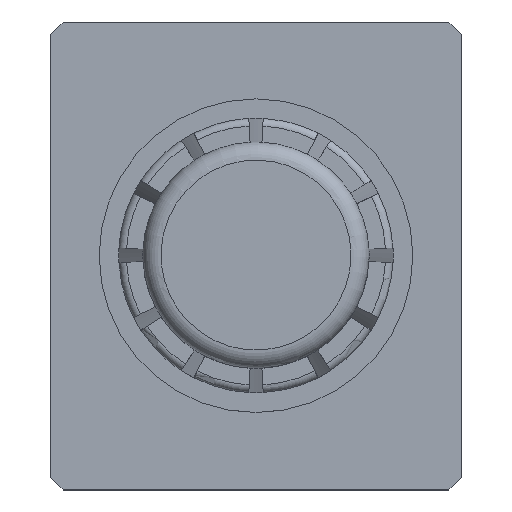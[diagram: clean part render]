
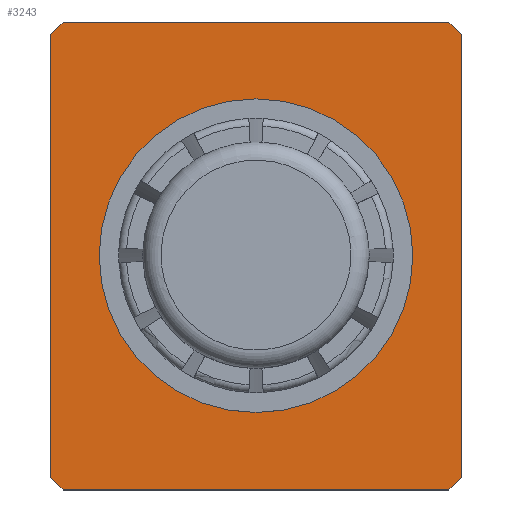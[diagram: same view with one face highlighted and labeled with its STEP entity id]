
A CAD part, top view. The second image highlights one B-rep face of the part: STEP entity #3243.
In plain terms, the highlighted planar face has unit normal (0, 0, 1).
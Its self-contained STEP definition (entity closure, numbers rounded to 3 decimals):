
#2329=CARTESIAN_POINT('',(26.0,0.,69.0));
#2330=VERTEX_POINT('',#2329);
#2331=CARTESIAN_POINT('',(0.,0.,69.0));
#2332=DIRECTION('',(0.0,0.0,-1.0));
#2333=DIRECTION('',(-1.0,0.0,0.0));
#2334=AXIS2_PLACEMENT_3D('',#2331,#2332,#2333);
#2335=CIRCLE('',#2334,26.0);
#2336=EDGE_CURVE('',#2330,#2330,#2335,.T.);
#3086=CARTESIAN_POINT('',(-34.0,36.75,69.0));
#3087=VERTEX_POINT('',#3086);
#3088=CARTESIAN_POINT('',(-32.,38.75,69.0));
#3089=VERTEX_POINT('',#3088);
#3090=CARTESIAN_POINT('',(-34.0,36.75,69.0));
#3091=DIRECTION('',(0.707,0.707,0.0));
#3092=VECTOR('',#3091,2.828);
#3093=LINE('',#3090,#3092);
#3094=EDGE_CURVE('',#3087,#3089,#3093,.T.);
#3127=CARTESIAN_POINT('',(32.0,38.75,69.0));
#3128=VERTEX_POINT('',#3127);
#3129=CARTESIAN_POINT('',(-32.,38.75,69.0));
#3130=DIRECTION('',(1.0,0.0,0.0));
#3131=VECTOR('',#3130,64.0);
#3132=LINE('',#3129,#3131);
#3133=EDGE_CURVE('',#3089,#3128,#3132,.T.);
#3185=CARTESIAN_POINT('',(0.,0.,69.0));
#3186=DIRECTION('',(0.0,0.0,1.0));
#3187=DIRECTION('',(1.0,0.0,0.0));
#3188=AXIS2_PLACEMENT_3D('',#3185,#3186,#3187);
#3189=PLANE('',#3188);
#3190=ORIENTED_EDGE('',*,*,#3094,.F.);
#3191=CARTESIAN_POINT('',(-34.0,-36.75,69.0));
#3192=VERTEX_POINT('',#3191);
#3193=CARTESIAN_POINT('',(-34.0,-36.75,69.0));
#3194=DIRECTION('',(0.0,1.0,0.0));
#3195=VECTOR('',#3194,73.5);
#3196=LINE('',#3193,#3195);
#3197=EDGE_CURVE('',#3192,#3087,#3196,.T.);
#3198=ORIENTED_EDGE('',*,*,#3197,.F.);
#3199=CARTESIAN_POINT('',(-32.,-38.75,69.0));
#3200=VERTEX_POINT('',#3199);
#3201=CARTESIAN_POINT('',(-32.,-38.75,69.0));
#3202=DIRECTION('',(-0.707,0.707,0.0));
#3203=VECTOR('',#3202,2.828);
#3204=LINE('',#3201,#3203);
#3205=EDGE_CURVE('',#3200,#3192,#3204,.T.);
#3206=ORIENTED_EDGE('',*,*,#3205,.F.);
#3207=CARTESIAN_POINT('',(32.0,-38.75,69.0));
#3208=VERTEX_POINT('',#3207);
#3209=CARTESIAN_POINT('',(32.0,-38.75,69.0));
#3210=DIRECTION('',(-1.0,0.0,0.0));
#3211=VECTOR('',#3210,64.);
#3212=LINE('',#3209,#3211);
#3213=EDGE_CURVE('',#3208,#3200,#3212,.T.);
#3214=ORIENTED_EDGE('',*,*,#3213,.F.);
#3215=CARTESIAN_POINT('',(34.0,-36.75,69.0));
#3216=VERTEX_POINT('',#3215);
#3217=CARTESIAN_POINT('',(34.0,-36.75,69.0));
#3218=DIRECTION('',(-0.707,-0.707,0.0));
#3219=VECTOR('',#3218,2.828);
#3220=LINE('',#3217,#3219);
#3221=EDGE_CURVE('',#3216,#3208,#3220,.T.);
#3222=ORIENTED_EDGE('',*,*,#3221,.F.);
#3223=CARTESIAN_POINT('',(34.0,36.75,69.0));
#3224=VERTEX_POINT('',#3223);
#3225=CARTESIAN_POINT('',(34.0,36.75,69.0));
#3226=DIRECTION('',(0.0,-1.0,0.0));
#3227=VECTOR('',#3226,73.5);
#3228=LINE('',#3225,#3227);
#3229=EDGE_CURVE('',#3224,#3216,#3228,.T.);
#3230=ORIENTED_EDGE('',*,*,#3229,.F.);
#3231=CARTESIAN_POINT('',(32.0,38.75,69.0));
#3232=DIRECTION('',(0.707,-0.707,0.0));
#3233=VECTOR('',#3232,2.828);
#3234=LINE('',#3231,#3233);
#3235=EDGE_CURVE('',#3128,#3224,#3234,.T.);
#3236=ORIENTED_EDGE('',*,*,#3235,.F.);
#3237=ORIENTED_EDGE('',*,*,#3133,.F.);
#3238=EDGE_LOOP('',(#3190,#3198,#3206,#3214,#3222,#3230,#3236,#3237));
#3239=FACE_OUTER_BOUND('',#3238,.T.);
#3240=ORIENTED_EDGE('',*,*,#2336,.T.);
#3241=EDGE_LOOP('',(#3240));
#3242=FACE_BOUND('',#3241,.T.);
#3243=ADVANCED_FACE('',(#3239,#3242),#3189,.T.);
